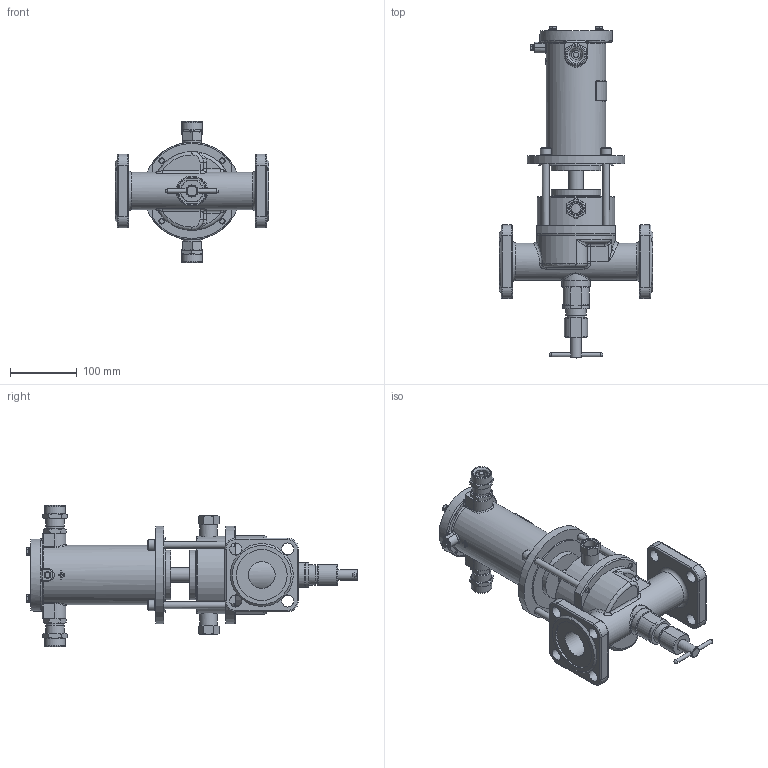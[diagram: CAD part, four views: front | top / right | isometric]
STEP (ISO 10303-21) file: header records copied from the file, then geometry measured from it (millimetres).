
FILE_DESCRIPTION(('STEP AP203'), '1');
FILE_NAME('ÑÅÍÑ DN40PN25-Ì.stp', '2018-09-19T08:56:51', ('Îðëîâ Å.Â.'), ('ÎÎÎ ÍÏÏ Ñåíñîð'), 'ASCON STEP Converter 1.3', 'Kompas 3D', '');
FILE_SCHEMA(('CONFIG_CONTROL_DESIGN','SUPPORT_RESOURCE_SCHEMA'));
Length unit declared in the file: millimetre
Products named in the file (1): 117
Bounding box: 230 x 496.7 x 211 mm (x, y, z)
Volume: 1837313.9 mm3; surface area: 502166.9 mm2
Topology: 2 solids, 20 shells, 2047 faces, 5383 edges, 3472 vertices
Faces by surface type: cylinder 1029, plane 755, cone 142, torus 54, bspline 47, extrusion 16, sphere 4
Full cylindrical faces by diameter (mm): 3.5 x2, 4.134 x1, 4.917 x4, 5 x1, 6 x10, 6.5 x4, 8 x8, 8.2 x1, 8.376 x4, 9 x1, 10 x5, 11 x5, 12 x4, 13 x2, 15 x2, 16 x6, 17 x2, 18 x9, 18.631 x2, 20 x5, 21.5 x2, 22 x3, 22.376 x2, 23 x1, 23.5 x2, 24 x2, 24.5 x2, 26 x6, 26.376 x2, 27.8 x1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
Entity records: 80220 total; most frequent: CARTESIAN_POINT 28568, DIRECTION 11201, ORIENTED_EDGE 10708, EDGE_CURVE 5354, AXIS2_PLACEMENT_3D 4311, VERTEX_POINT 3472, VECTOR 2579, LINE 2563
